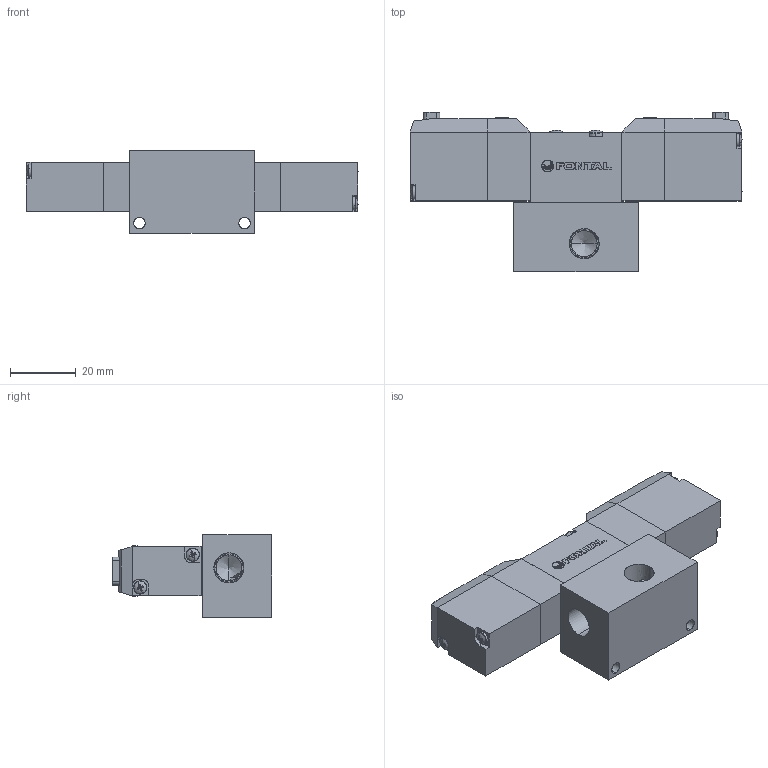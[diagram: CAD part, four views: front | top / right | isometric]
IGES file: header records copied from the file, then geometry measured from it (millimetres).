
Start section: SolidWorks IGES file using analytic representation for surfaces
Global section: file name: D:\Custom\3D繪製\PC\PC5\PCD245#-01-#-L-#.IGS,1; native system: 5HSolidWorks 2014; preprocessor: SolidWorks 2014; author: Chieh_Lu; date: 150729.231912; units: millimetre
Bounding box: 101.14 x 48.5 x 25 mm (x, y, z)
Surface area: 20358.9 mm2 (no closed solid volume)
Topology: 0 solids, 0 shells, 541 faces, 5314 edges, 5288 vertices
Faces by surface type: bspline 326, revolution 215
